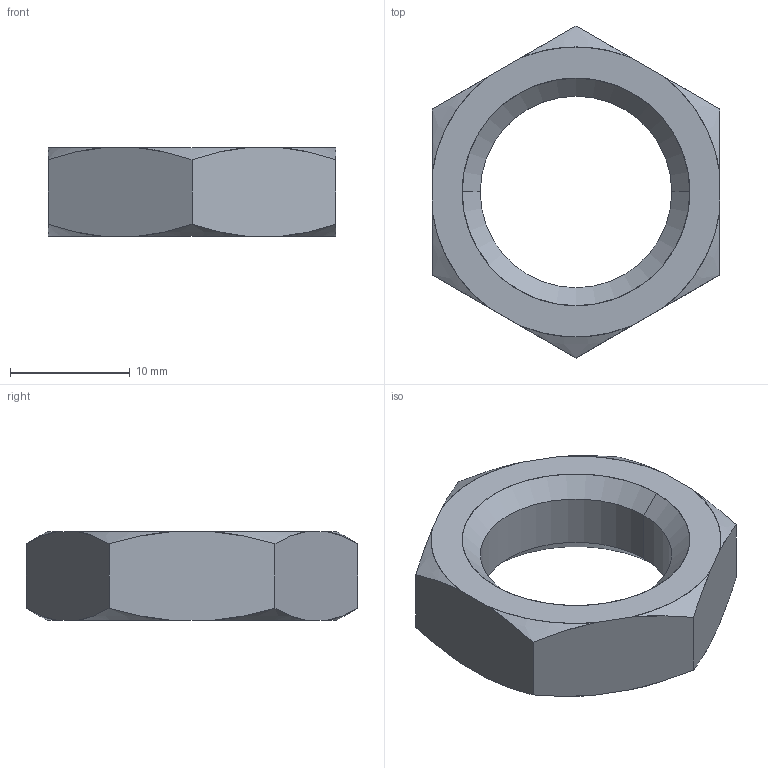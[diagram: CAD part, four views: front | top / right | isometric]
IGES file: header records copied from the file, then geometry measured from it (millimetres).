
Start section: SolidWorks IGES file using analytic representation for surfaces
Global section: file name: C:\Users\liam_\OneDrive\Desktop\Work\Mat Davis Pending 20181125\automotion\P SERIES\P0307.ZP_v2\P0307.ZP_v2_20181215_IGES\P0307.160-150-ZP.igs; native system: SolidWorks 2017; preprocessor: SolidWorks 2017; author: liam_; date: 181215.155011; units: millimetre
Bounding box: 24 x 27.71 x 7.42 mm (x, y, z)
Surface area: 1462.7 mm2 (no closed solid volume)
Topology: 0 solids, 0 shells, 26 faces, 304 edges, 304 vertices
Faces by surface type: revolution 18, bspline 8
